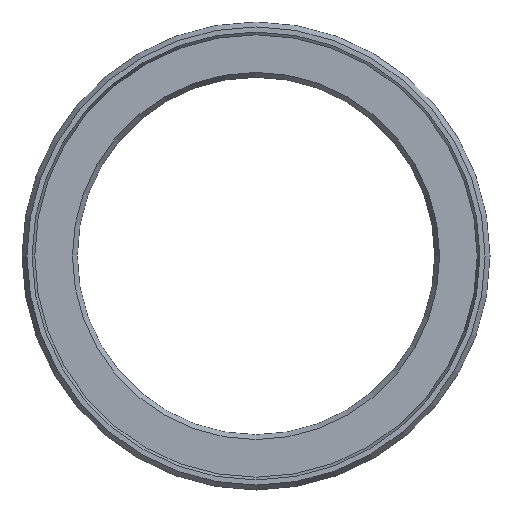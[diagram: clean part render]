
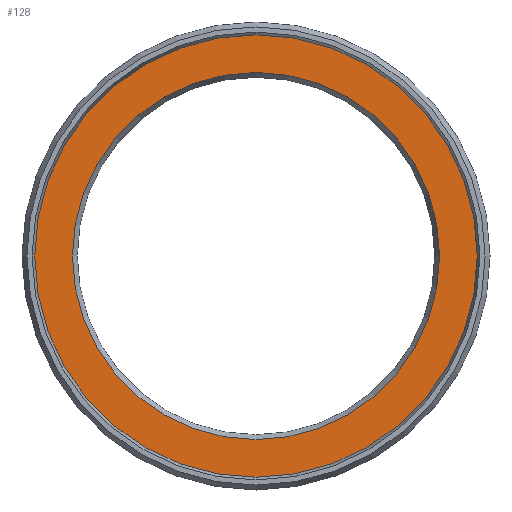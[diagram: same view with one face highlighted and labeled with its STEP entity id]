
A CAD part, left-side view. The second image highlights one B-rep face of the part: STEP entity #128.
In plain terms, the highlighted planar face has unit normal (-1, 0, 0).
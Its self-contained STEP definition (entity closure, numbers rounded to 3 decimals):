
#112=PLANE('',#329);
#128=ADVANCED_FACE('',(#163,#164),#112,.T.);
#163=FACE_BOUND('',#199,.T.);
#164=FACE_BOUND('',#200,.T.);
#199=EDGE_LOOP('',(#235));
#200=EDGE_LOOP('',(#236));
#235=ORIENTED_EDGE('',*,*,#276,.T.);
#236=ORIENTED_EDGE('',*,*,#275,.F.);
#257=VERTEX_POINT('',#454);
#258=VERTEX_POINT('',#457);
#275=EDGE_CURVE('',#257,#257,#293,.T.);
#276=EDGE_CURVE('',#258,#258,#294,.T.);
#293=CIRCLE('',#326,26.);
#294=CIRCLE('',#328,21.577);
#326=AXIS2_PLACEMENT_3D('',#453,#394,#395);
#328=AXIS2_PLACEMENT_3D('',#456,#398,#399);
#329=AXIS2_PLACEMENT_3D('',#458,#400,#401);
#394=DIRECTION('',(1.,0.,0.));
#395=DIRECTION('',(0.,0.,-1.));
#398=DIRECTION('',(1.,0.,0.));
#399=DIRECTION('',(0.,0.,1.));
#400=DIRECTION('',(-1.,0.,0.));
#401=DIRECTION('',(0.,0.,1.));
#453=CARTESIAN_POINT('',(0.,0.,0.));
#454=CARTESIAN_POINT('',(0.,0.,-26.));
#456=CARTESIAN_POINT('',(0.,0.,0.));
#457=CARTESIAN_POINT('',(0.,0.,21.577));
#458=CARTESIAN_POINT('',(0.,26.,0.));
